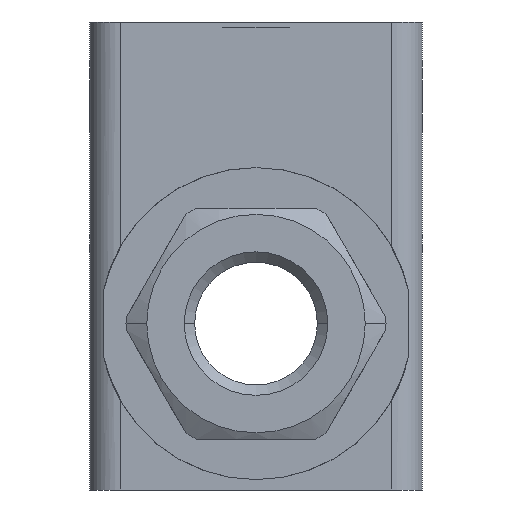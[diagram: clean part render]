
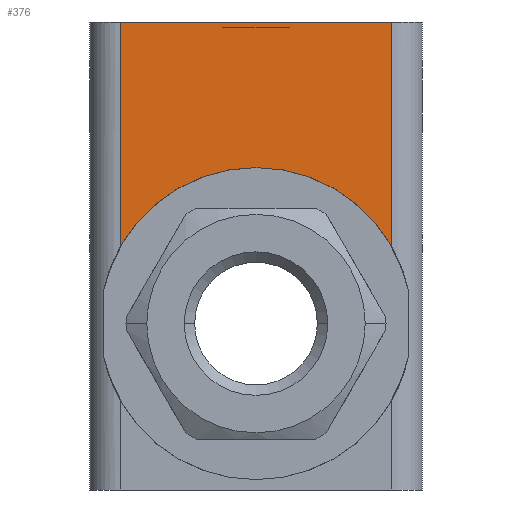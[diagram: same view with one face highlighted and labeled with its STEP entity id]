
A CAD part, left-side view. The second image highlights one B-rep face of the part: STEP entity #376.
In plain terms, the highlighted planar face has unit normal (-1, 0, 0).
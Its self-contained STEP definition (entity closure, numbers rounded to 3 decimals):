
#22 = CARTESIAN_POINT ( 'NONE',  ( -31.5, 13., 22.5 ) ) ;
#100 = CARTESIAN_POINT ( 'NONE',  ( -31.5, 0., -6.5 ) ) ;
#157 = FACE_OUTER_BOUND ( 'NONE', #2368, .T. ) ;
#184 = CARTESIAN_POINT ( 'NONE',  ( -31.5, 0., -6.5 ) ) ;
#213 = CARTESIAN_POINT ( 'NONE',  ( -31.5, 13., 0.983 ) ) ;
#376 = ADVANCED_FACE ( 'NONE', ( #157 ), #1089, .F. ) ;
#539 = EDGE_CURVE ( 'NONE', #2398, #1912, #2080, .T. ) ;
#581 = ORIENTED_EDGE ( 'NONE', *, *, #1324, .T. ) ;
#659 = EDGE_CURVE ( 'NONE', #1706, #2887, #2148, .T. ) ;
#725 = CARTESIAN_POINT ( 'NONE',  ( -31.5, -13., 0.983 ) ) ;
#742 = ORIENTED_EDGE ( 'NONE', *, *, #659, .F. ) ;
#938 = EDGE_CURVE ( 'NONE', #2066, #1912, #2240, .T. ) ;
#955 = DIRECTION ( 'NONE',  ( 0., 0., -1. ) ) ;
#996 = ORIENTED_EDGE ( 'NONE', *, *, #539, .T. ) ;
#1034 = ORIENTED_EDGE ( 'NONE', *, *, #938, .F. ) ;
#1089 = PLANE ( 'NONE',  #1887 ) ;
#1105 = CARTESIAN_POINT ( 'NONE',  ( -31.5, -13., 22.5 ) ) ;
#1147 = DIRECTION ( 'NONE',  ( 0., 0., 1. ) ) ;
#1270 = DIRECTION ( 'NONE',  ( 0., 0., 1. ) ) ;
#1297 = CARTESIAN_POINT ( 'NONE',  ( -31.5, 16., 22.5 ) ) ;
#1302 = VECTOR ( 'NONE', #3027, 1000. ) ;
#1324 = EDGE_CURVE ( 'NONE', #2066, #2887, #1886, .T. ) ;
#1368 = ORIENTED_EDGE ( 'NONE', *, *, #1380, .F. ) ;
#1380 = EDGE_CURVE ( 'NONE', #2398, #1706, #2559, .T. ) ;
#1425 = CARTESIAN_POINT ( 'NONE',  ( -31.5, 13., 22.5 ) ) ;
#1679 = VECTOR ( 'NONE', #2020, 1000. ) ;
#1706 = VERTEX_POINT ( 'NONE', #2871 ) ;
#1789 = DIRECTION ( 'NONE',  ( 1., 0., 0. ) ) ;
#1886 = LINE ( 'NONE', #22, #2344 ) ;
#1887 = AXIS2_PLACEMENT_3D ( 'NONE', #2940, #1789, #2725 ) ;
#1912 = VERTEX_POINT ( 'NONE', #3029 ) ;
#2003 = DIRECTION ( 'NONE',  ( -1., 0., 0. ) ) ;
#2020 = DIRECTION ( 'NONE',  ( 0., -1., 0. ) ) ;
#2058 = AXIS2_PLACEMENT_3D ( 'NONE', #100, #2003, #1270 ) ;
#2066 = VERTEX_POINT ( 'NONE', #1425 ) ;
#2080 = LINE ( 'NONE', #1105, #1302 ) ;
#2148 = CIRCLE ( 'NONE', #2544, 15. ) ;
#2240 = LINE ( 'NONE', #1297, #1679 ) ;
#2344 = VECTOR ( 'NONE', #955, 1000. ) ;
#2368 = EDGE_LOOP ( 'NONE', ( #1368, #996, #1034, #581, #742 ) ) ;
#2398 = VERTEX_POINT ( 'NONE', #725 ) ;
#2544 = AXIS2_PLACEMENT_3D ( 'NONE', #184, #3001, #1147 ) ;
#2559 = CIRCLE ( 'NONE', #2058, 15. ) ;
#2725 = DIRECTION ( 'NONE',  ( 0., 0., -1. ) ) ;
#2871 = CARTESIAN_POINT ( 'NONE',  ( -31.5, 0., 8.5 ) ) ;
#2887 = VERTEX_POINT ( 'NONE', #213 ) ;
#2940 = CARTESIAN_POINT ( 'NONE',  ( -31.5, 16., 22.5 ) ) ;
#3001 = DIRECTION ( 'NONE',  ( -1., 0., 0. ) ) ;
#3027 = DIRECTION ( 'NONE',  ( 0., 0., 1. ) ) ;
#3029 = CARTESIAN_POINT ( 'NONE',  ( -31.5, -13., 22.5 ) ) ;
